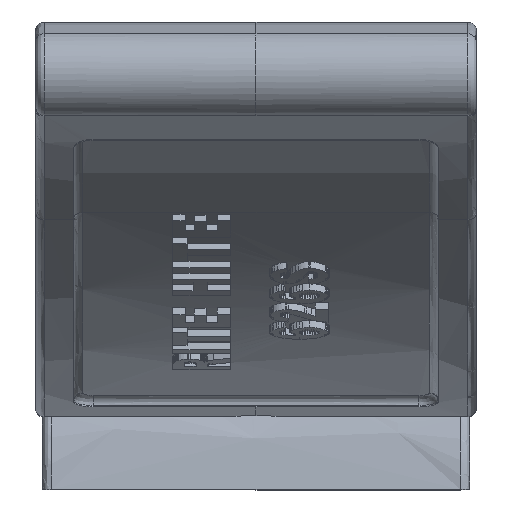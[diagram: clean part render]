
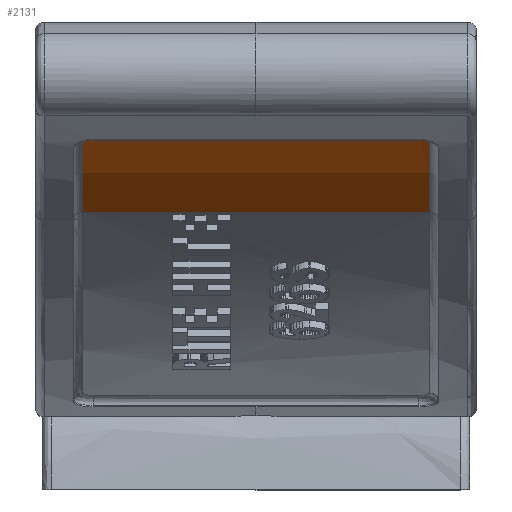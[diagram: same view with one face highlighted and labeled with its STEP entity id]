
A CAD part, top view. The second image highlights one B-rep face of the part: STEP entity #2131.
In plain terms, the highlighted free-form (B-spline) face has degree [2, 1] with [3, 2] control points.
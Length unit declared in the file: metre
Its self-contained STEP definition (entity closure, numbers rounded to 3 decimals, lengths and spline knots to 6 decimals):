
#2131 = ADVANCED_FACE( '', ( #4336 ), #4337, .F. );
#4336 = FACE_OUTER_BOUND( '', #12542, .T. );
#4337 = ( BOUNDED_SURFACE(  )B_SPLINE_SURFACE( 2, 1, ( ( #12545, #12546 ), ( #12547, #12548 ), ( #12549, #12550 ) ), .UNSPECIFIED., .F., .F., .F. )B_SPLINE_SURFACE_WITH_KNOTS( ( 3, 3 ), ( 2, 2 ), ( 0.04731, 1. ), ( 0.017723, 0.982275 ), .UNSPECIFIED. )GEOMETRIC_REPRESENTATION_ITEM(  )RATIONAL_B_SPLINE_SURFACE( ( ( 0.999, 0.999 ), ( 0.994, 0.994 ), ( 1., 1. ) ) )REPRESENTATION_ITEM( '' )SURFACE(  ) );
#12542 = EDGE_LOOP( '', ( #17529, #17530, #17531, #17532, #17533, #17534 ) );
#12545 = CARTESIAN_POINT( '', ( 0.018327, 0.036912, 0.076398 ) );
#12546 = CARTESIAN_POINT( '', ( -0.018326, 0.036912, 0.076398 ) );
#12547 = CARTESIAN_POINT( '', ( 0.018327, 0.033624, 0.069067 ) );
#12548 = CARTESIAN_POINT( '', ( -0.018326, 0.033624, 0.069067 ) );
#12549 = CARTESIAN_POINT( '', ( 0.018327, 0.028839, 0.062612 ) );
#12550 = CARTESIAN_POINT( '', ( -0.018326, 0.028839, 0.062612 ) );
#17529 = ORIENTED_EDGE( '', *, *, #20128, .F. );
#17530 = ORIENTED_EDGE( '', *, *, #20239, .F. );
#17531 = ORIENTED_EDGE( '', *, *, #18164, .F. );
#17532 = ORIENTED_EDGE( '', *, *, #20710, .T. );
#17533 = ORIENTED_EDGE( '', *, *, #20103, .F. );
#17534 = ORIENTED_EDGE( '', *, *, #18318, .F. );
#18164 = EDGE_CURVE( '', #21042, #21037, #21044, .T. );
#18318 = EDGE_CURVE( '', #21314, #21310, #21316, .T. );
#20103 = EDGE_CURVE( '', #21310, #24115, #24116, .T. );
#20128 = EDGE_CURVE( '', #24150, #21314, #24152, .T. );
#20239 = EDGE_CURVE( '', #21037, #24150, #24303, .T. );
#20710 = EDGE_CURVE( '', #21042, #24115, #24861, .F. );
#21037 = VERTEX_POINT( '', #25542 );
#21042 = VERTEX_POINT( '', #25566 );
#21044 = ( BOUNDED_CURVE(  )B_SPLINE_CURVE( 2, ( #25580, #25581, #25582 ), .UNSPECIFIED., .F., .F. )B_SPLINE_CURVE_WITH_KNOTS( ( 3, 3 ), ( 0., 1. ), .UNSPECIFIED. )CURVE(  )GEOMETRIC_REPRESENTATION_ITEM(  )RATIONAL_B_SPLINE_CURVE( ( 1., 0.995, 1. ) )REPRESENTATION_ITEM( '' ) );
#21310 = VERTEX_POINT( '', #26388 );
#21314 = VERTEX_POINT( '', #26417 );
#21316 = B_SPLINE_CURVE_WITH_KNOTS( '', 3, ( #26428, #26429, #26430, #26431, #26432, #26433, #26434, #26435, #26436, #26437, #26438, #26439, #26440, #26441, #26442, #26443 ), .UNSPECIFIED., .F., .F., ( 4, 1, 1, 1, 1, 1, 1, 1, 1, 1, 1, 1, 1, 4 ), ( 0., 0.047478, 0.079876, 0.125693, 0.1925, 0.262567, 0.337058, 0.417635, 0.502294, 0.592529, 0.668742, 0.749847, 0.828375, 1. ), .UNSPECIFIED. );
#24115 = VERTEX_POINT( '', #36128 );
#24116 = ( BOUNDED_CURVE(  )B_SPLINE_CURVE( 2, ( #36131, #36132, #36133 ), .UNSPECIFIED., .F., .F. )B_SPLINE_CURVE_WITH_KNOTS( ( 3, 3 ), ( 0.107707, 1. ), .UNSPECIFIED. )CURVE(  )GEOMETRIC_REPRESENTATION_ITEM(  )RATIONAL_B_SPLINE_CURVE( ( 0.999, 0.994, 1. ) )REPRESENTATION_ITEM( '' ) );
#24150 = VERTEX_POINT( '', #36256 );
#24152 = B_SPLINE_CURVE_WITH_KNOTS( '', 3, ( #36268, #36269, #36270, #36271, #36272 ), .UNSPECIFIED., .F., .F., ( 4, 1, 4 ), ( 0.055556, 0.444108, 1. ), .UNSPECIFIED. );
#24303 = B_SPLINE_CURVE_WITH_KNOTS( '', 3, ( #36727, #36728, #36729, #36730, #36731, #36732, #36733, #36734, #36735, #36736, #36737, #36738, #36739, #36740, #36741, #36742 ), .UNSPECIFIED., .F., .F., ( 4, 1, 1, 1, 1, 1, 1, 1, 1, 1, 1, 1, 1, 4 ), ( 0., 0.047731, 0.080323, 0.126402, 0.193558, 0.263949, 0.33871, 0.419449, 0.504178, 0.594342, 0.670378, 0.751194, 0.829347, 1. ), .UNSPECIFIED. );
#24861 = B_SPLINE_CURVE_WITH_KNOTS( '', 1, ( #38787, #38788 ), .UNSPECIFIED., .F., .F., ( 2, 2 ), ( 0.023684, 0.976316 ), .UNSPECIFIED. );
#25542 = CARTESIAN_POINT( '', ( -0.0181, 0.036406, 0.075295 ) );
#25566 = CARTESIAN_POINT( '', ( -0.0181, 0.028839, 0.062612 ) );
#25580 = CARTESIAN_POINT( '', ( -0.0181, 0.028839, 0.062612 ) );
#25581 = CARTESIAN_POINT( '', ( -0.0181, 0.033259, 0.068574 ) );
#25582 = CARTESIAN_POINT( '', ( -0.0181, 0.036406, 0.075295 ) );
#26388 = CARTESIAN_POINT( '', ( 0.0181, 0.036406, 0.075295 ) );
#26417 = CARTESIAN_POINT( '', ( 0.017, 0.036871, 0.076307 ) );
#26428 = CARTESIAN_POINT( '', ( 0.017, 0.036871, 0.076307 ) );
#26429 = CARTESIAN_POINT( '', ( 0.017027, 0.036871, 0.076307 ) );
#26430 = CARTESIAN_POINT( '', ( 0.017074, 0.03687, 0.076306 ) );
#26431 = CARTESIAN_POINT( '', ( 0.017146, 0.036867, 0.076299 ) );
#26432 = CARTESIAN_POINT( '', ( 0.017228, 0.036861, 0.076286 ) );
#26433 = CARTESIAN_POINT( '', ( 0.017331, 0.03685, 0.076262 ) );
#26434 = CARTESIAN_POINT( '', ( 0.017445, 0.036832, 0.076223 ) );
#26435 = CARTESIAN_POINT( '', ( 0.017561, 0.036808, 0.076168 ) );
#26436 = CARTESIAN_POINT( '', ( 0.017676, 0.036775, 0.076097 ) );
#26437 = CARTESIAN_POINT( '', ( 0.017787, 0.036734, 0.076006 ) );
#26438 = CARTESIAN_POINT( '', ( 0.017881, 0.036688, 0.075905 ) );
#26439 = CARTESIAN_POINT( '', ( 0.017959, 0.036638, 0.075795 ) );
#26440 = CARTESIAN_POINT( '', ( 0.018019, 0.036586, 0.075683 ) );
#26441 = CARTESIAN_POINT( '', ( 0.018081, 0.03651, 0.075517 ) );
#26442 = CARTESIAN_POINT( '', ( 0.0181, 0.036448, 0.075385 ) );
#26443 = CARTESIAN_POINT( '', ( 0.0181, 0.036406, 0.075295 ) );
#36128 = CARTESIAN_POINT( '', ( 0.0181, 0.028839, 0.062612 ) );
#36131 = CARTESIAN_POINT( '', ( 0.0181, 0.036406, 0.075295 ) );
#36132 = CARTESIAN_POINT( '', ( 0.0181, 0.033259, 0.068574 ) );
#36133 = CARTESIAN_POINT( '', ( 0.0181, 0.028839, 0.062612 ) );
#36256 = CARTESIAN_POINT( '', ( -0.017, 0.036871, 0.076307 ) );
#36268 = CARTESIAN_POINT( '', ( -0.017, 0.036871, 0.076307 ) );
#36269 = CARTESIAN_POINT( '', ( -0.012337, 0.036871, 0.076307 ) );
#36270 = CARTESIAN_POINT( '', ( -0.001004, 0.036871, 0.076307 ) );
#36271 = CARTESIAN_POINT( '', ( 0.010329, 0.036871, 0.076307 ) );
#36272 = CARTESIAN_POINT( '', ( 0.017, 0.036871, 0.076307 ) );
#36727 = CARTESIAN_POINT( '', ( -0.0181, 0.036406, 0.075295 ) );
#36728 = CARTESIAN_POINT( '', ( -0.0181, 0.036418, 0.07532 ) );
#36729 = CARTESIAN_POINT( '', ( -0.018098, 0.036437, 0.075363 ) );
#36730 = CARTESIAN_POINT( '', ( -0.018091, 0.036468, 0.075429 ) );
#36731 = CARTESIAN_POINT( '', ( -0.018078, 0.036504, 0.075505 ) );
#36732 = CARTESIAN_POINT( '', ( -0.018051, 0.036547, 0.075599 ) );
#36733 = CARTESIAN_POINT( '', ( -0.018009, 0.036596, 0.075704 ) );
#36734 = CARTESIAN_POINT( '', ( -0.017949, 0.036645, 0.07581 ) );
#36735 = CARTESIAN_POINT( '', ( -0.017872, 0.036693, 0.075916 ) );
#36736 = CARTESIAN_POINT( '', ( -0.017774, 0.03674, 0.076018 ) );
#36737 = CARTESIAN_POINT( '', ( -0.017664, 0.036779, 0.076105 ) );
#36738 = CARTESIAN_POINT( '', ( -0.017545, 0.036812, 0.076177 ) );
#36739 = CARTESIAN_POINT( '', ( -0.017423, 0.036837, 0.076232 ) );
#36740 = CARTESIAN_POINT( '', ( -0.017242, 0.036863, 0.076289 ) );
#36741 = CARTESIAN_POINT( '', ( -0.017099, 0.036871, 0.076307 ) );
#36742 = CARTESIAN_POINT( '', ( -0.017, 0.036871, 0.076307 ) );
#38787 = CARTESIAN_POINT( '', ( 0.0181, 0.028839, 0.062612 ) );
#38788 = CARTESIAN_POINT( '', ( -0.0181, 0.028839, 0.062612 ) );
